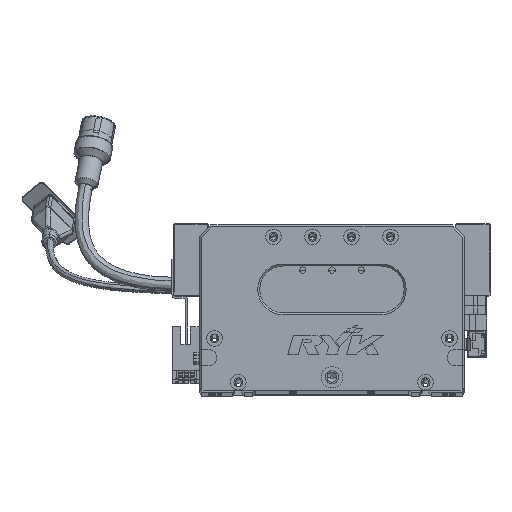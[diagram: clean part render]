
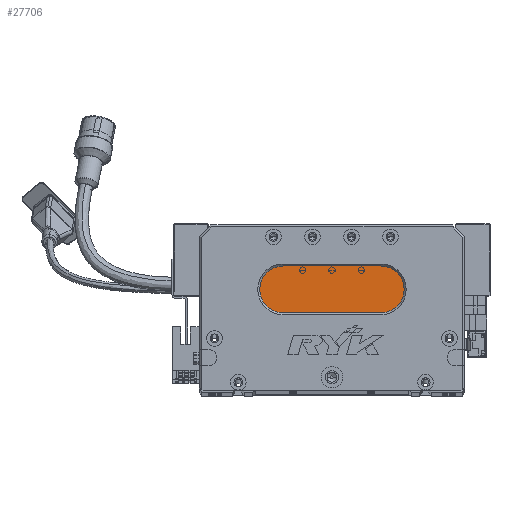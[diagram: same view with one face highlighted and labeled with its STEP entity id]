
A CAD part, top view. The second image highlights one B-rep face of the part: STEP entity #27706.
In plain terms, the highlighted planar face has unit normal (0, 0, 1) as drawn and (0, 0, -1) by its records, which use the part's own axes.
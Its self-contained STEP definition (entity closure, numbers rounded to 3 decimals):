
#1982 = CARTESIAN_POINT ( 'NONE',  ( 93., 52., 13. ) ) ;
#4974 = FACE_OUTER_BOUND ( 'NONE', #63601, .T. ) ;
#5112 = VERTEX_POINT ( 'NONE', #16957 ) ;
#8861 = ORIENTED_EDGE ( 'NONE', *, *, #36976, .T. ) ;
#9285 = ORIENTED_EDGE ( 'NONE', *, *, #42907, .T. ) ;
#10430 = AXIS2_PLACEMENT_3D ( 'NONE', #1982, #81471, #37686 ) ;
#12027 = DIRECTION ( 'NONE',  ( 0., 0., -1. ) ) ;
#12763 = DIRECTION ( 'NONE',  ( 0., 0., -1. ) ) ;
#14515 = AXIS2_PLACEMENT_3D ( 'NONE', #43422, #87750, #21755 ) ;
#15917 = CIRCLE ( 'NONE', #70301, 12. ) ;
#16957 = CARTESIAN_POINT ( 'NONE',  ( 93., 64., 13. ) ) ;
#17705 = ORIENTED_EDGE ( 'NONE', *, *, #19047, .T. ) ;
#19047 = EDGE_CURVE ( 'NONE', #59671, #5112, #19162, .T. ) ;
#19162 = LINE ( 'NONE', #43139, #67146 ) ;
#21755 = DIRECTION ( 'NONE',  ( -1., 0., 0. ) ) ;
#21947 = CARTESIAN_POINT ( 'NONE',  ( 43., 40., 13. ) ) ;
#26356 = DIRECTION ( 'NONE',  ( -1., 0., 0. ) ) ;
#27411 = CARTESIAN_POINT ( 'NONE',  ( 43., 52., 13. ) ) ;
#27706 = ADVANCED_FACE ( 'NONE', ( #4974 ), #45674, .T. ) ;
#31251 = AXIS2_PLACEMENT_3D ( 'NONE', #27411, #12763, #86089 ) ;
#33444 = CIRCLE ( 'NONE', #14515, 12. ) ;
#35037 = EDGE_CURVE ( 'NONE', #60878, #59671, #15917, .T. ) ;
#36976 = EDGE_CURVE ( 'NONE', #52463, #60878, #72670, .T. ) ;
#37427 = VECTOR ( 'NONE', #57392, 1000. ) ;
#37686 = DIRECTION ( 'NONE',  ( -1., 0., 0. ) ) ;
#39739 = LINE ( 'NONE', #78774, #37427 ) ;
#40153 = CARTESIAN_POINT ( 'NONE',  ( 93., 40., 13. ) ) ;
#41554 = VERTEX_POINT ( 'NONE', #40153 ) ;
#42907 = EDGE_CURVE ( 'NONE', #5112, #41554, #33444, .T. ) ;
#43139 = CARTESIAN_POINT ( 'NONE',  ( 93., 64., 13. ) ) ;
#43422 = CARTESIAN_POINT ( 'NONE',  ( 93., 52., 13. ) ) ;
#45674 = PLANE ( 'NONE',  #10430 ) ;
#52463 = VERTEX_POINT ( 'NONE', #21947 ) ;
#57392 = DIRECTION ( 'NONE',  ( -1., 0., 0. ) ) ;
#59671 = VERTEX_POINT ( 'NONE', #83846 ) ;
#60878 = VERTEX_POINT ( 'NONE', #79170 ) ;
#63601 = EDGE_LOOP ( 'NONE', ( #9285, #81224, #8861, #89788, #17705 ) ) ;
#67146 = VECTOR ( 'NONE', #79249, 1000. ) ;
#70301 = AXIS2_PLACEMENT_3D ( 'NONE', #70414, #12027, #26356 ) ;
#70414 = CARTESIAN_POINT ( 'NONE',  ( 43., 52., 13. ) ) ;
#72670 = CIRCLE ( 'NONE', #31251, 12. ) ;
#77293 = EDGE_CURVE ( 'NONE', #41554, #52463, #39739, .T. ) ;
#78774 = CARTESIAN_POINT ( 'NONE',  ( 93., 40., 13. ) ) ;
#79170 = CARTESIAN_POINT ( 'NONE',  ( 31., 52., 13. ) ) ;
#79249 = DIRECTION ( 'NONE',  ( 1., 0., 0. ) ) ;
#81224 = ORIENTED_EDGE ( 'NONE', *, *, #77293, .T. ) ;
#81471 = DIRECTION ( 'NONE',  ( 0., 0., -1. ) ) ;
#83846 = CARTESIAN_POINT ( 'NONE',  ( 43., 64., 13. ) ) ;
#86089 = DIRECTION ( 'NONE',  ( -1., 0., 0. ) ) ;
#87750 = DIRECTION ( 'NONE',  ( 0., 0., -1. ) ) ;
#89788 = ORIENTED_EDGE ( 'NONE', *, *, #35037, .T. ) ;
